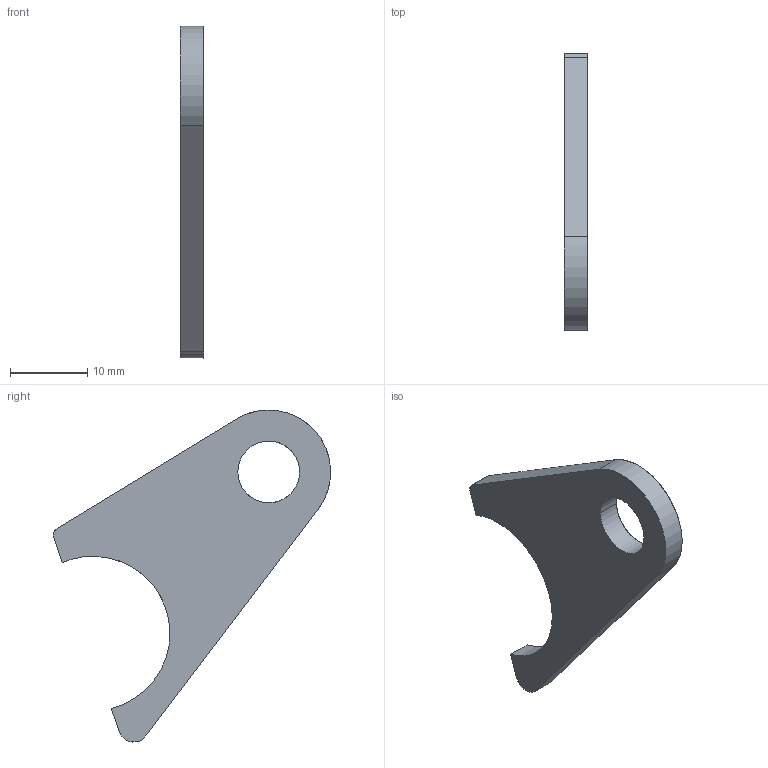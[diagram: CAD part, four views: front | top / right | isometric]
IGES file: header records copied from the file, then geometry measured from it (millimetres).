
Start section: START RECORD GO HERE.
Global section: file name: 20M_EN_06127 (Chape PE Gauche bas).igs; native system: IBM CATIA IGES - CATIA Version 5 Release 19 ; preprocessor: CATIA Version 5 Release 19 ; author: Martin Kawczynski; organization: DESKTOP-UDLM1FC; date: 20200103.165938; units: millimetre
Bounding box: 3 x 35.92 x 43.01 mm (x, y, z)
Surface area: 1650.1 mm2 (no closed solid volume)
Topology: 0 solids, 0 shells, 14 faces, 72 edges, 72 vertices
Faces by surface type: revolution 8, plane 6
